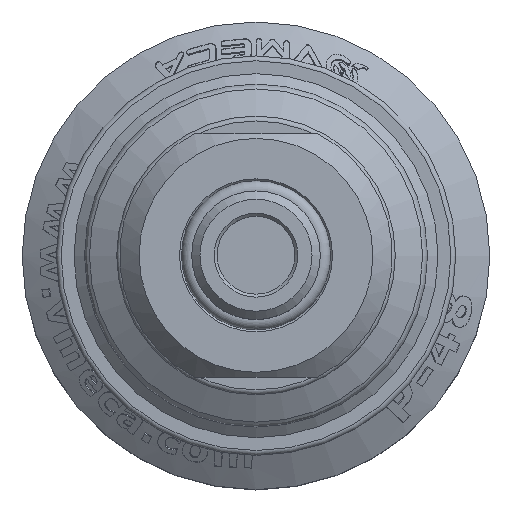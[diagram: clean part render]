
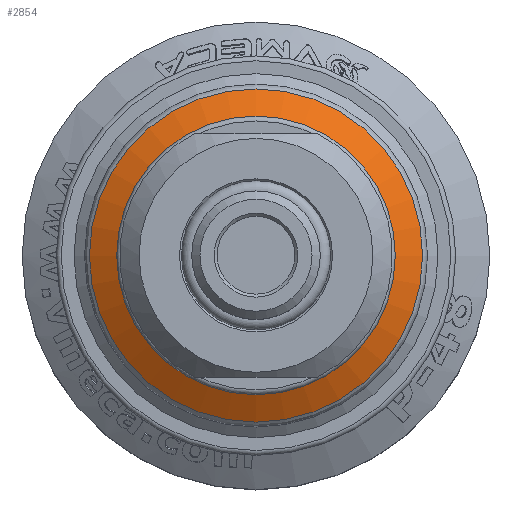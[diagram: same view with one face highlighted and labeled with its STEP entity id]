
A CAD part, top view. The second image highlights one B-rep face of the part: STEP entity #2854.
In plain terms, the highlighted conical face has half-angle 59.976 degrees and reference radius 17.1 mm.
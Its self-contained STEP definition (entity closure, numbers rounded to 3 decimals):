
#2854 = ADVANCED_FACE( '', ( #6398, #6399 ), #6400, .T. );
#6398 = FACE_BOUND( '', #12907, .T. );
#6399 = FACE_OUTER_BOUND( '', #12908, .T. );
#6400 = CONICAL_SURFACE( '', #12909, 17.1, 1.047 );
#12907 = EDGE_LOOP( '', ( #18602 ) );
#12908 = EDGE_LOOP( '', ( #18603 ) );
#12909 = AXIS2_PLACEMENT_3D( '', #18604, #18605, #18606 );
#18602 = ORIENTED_EDGE( '', *, *, #23097, .F. );
#18603 = ORIENTED_EDGE( '', *, *, #23098, .T. );
#18604 = CARTESIAN_POINT( '', ( 0., 0., 7.327 ) );
#18605 = DIRECTION( '', ( 0., 0., -1. ) );
#18606 = DIRECTION( '', ( -1., 0., 0. ) );
#23097 = EDGE_CURVE( '', #26525, #26525, #26526, .T. );
#23098 = EDGE_CURVE( '', #26527, #26527, #26528, .T. );
#26525 = VERTEX_POINT( '', #34943 );
#26526 = CIRCLE( '', #34944, 13.9 );
#26527 = VERTEX_POINT( '', #34945 );
#26528 = CIRCLE( '', #34946, 17.1 );
#34943 = CARTESIAN_POINT( '', ( 13.9, 0., 9.176 ) );
#34944 = AXIS2_PLACEMENT_3D( '', #36052, #36053, #36054 );
#34945 = CARTESIAN_POINT( '', ( 17.1, 0., 7.327 ) );
#34946 = AXIS2_PLACEMENT_3D( '', #36055, #36056, #36057 );
#36052 = CARTESIAN_POINT( '', ( 0., 0., 9.176 ) );
#36053 = DIRECTION( '', ( 0., 0., 1. ) );
#36054 = DIRECTION( '', ( 1., 0., 0. ) );
#36055 = CARTESIAN_POINT( '', ( 0., 0., 7.327 ) );
#36056 = DIRECTION( '', ( 0., 0., 1. ) );
#36057 = DIRECTION( '', ( 1., 0., 0. ) );
